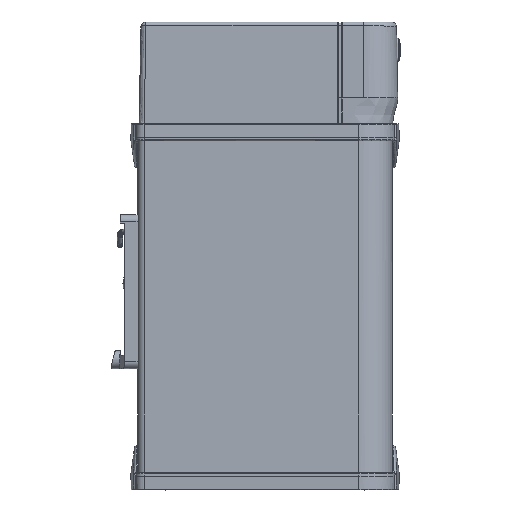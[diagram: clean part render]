
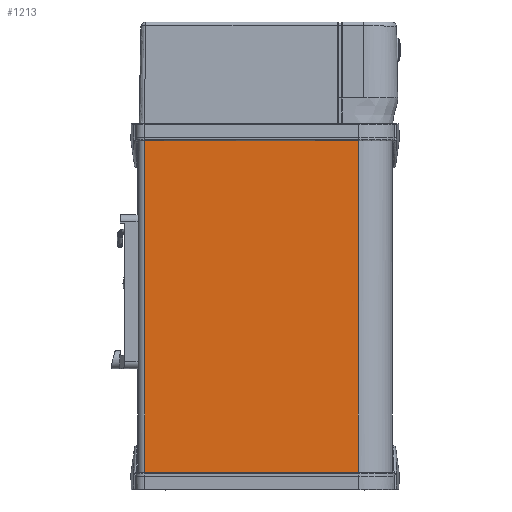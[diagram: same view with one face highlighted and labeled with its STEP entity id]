
A CAD part, left-side view. The second image highlights one B-rep face of the part: STEP entity #1213.
In plain terms, the highlighted planar face has unit normal (-1, 0, 0).
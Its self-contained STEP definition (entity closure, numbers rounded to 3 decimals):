
#1213=ADVANCED_FACE($,(#2496),#16156,.T.);
#2496=FACE_OUTER_BOUND($,#3844,.T.);
#3844=EDGE_LOOP($,(#9317,#9318,#9319,#9320));
#9317=ORIENTED_EDGE($,*,*,#13229,.T.);
#9318=ORIENTED_EDGE($,*,*,#13228,.T.);
#9319=ORIENTED_EDGE($,*,*,#13230,.T.);
#9320=ORIENTED_EDGE($,*,*,#13227,.T.);
#13227=EDGE_CURVE($,#15586,#15585,#18498,.T.);
#13228=EDGE_CURVE($,#15587,#15588,#18499,.T.);
#13229=EDGE_CURVE($,#15585,#15587,#18500,.T.);
#13230=EDGE_CURVE($,#15588,#15586,#18501,.T.);
#15585=VERTEX_POINT($,#41113);
#15586=VERTEX_POINT($,#41114);
#15587=VERTEX_POINT($,#41115);
#15588=VERTEX_POINT($,#41116);
#16156=PLANE($,#21214);
#18498=B_SPLINE_CURVE_WITH_KNOTS($,1,(#40655,#40656),.UNSPECIFIED.,.F.,.F.,
(2,2),(0.,100.),.UNSPECIFIED.);
#18499=B_SPLINE_CURVE_WITH_KNOTS($,1,(#40657,#40658),.UNSPECIFIED.,.F.,.F.,
(2,2),(-100.,0.),.UNSPECIFIED.);
#18500=B_SPLINE_CURVE_WITH_KNOTS($,1,(#40659,#40660),.UNSPECIFIED.,.F.,.F.,
(2,2),(-63.,0.),.UNSPECIFIED.);
#18501=B_SPLINE_CURVE_WITH_KNOTS($,1,(#40661,#40662),.UNSPECIFIED.,.F.,.F.,
(2,2),(0.,63.),.UNSPECIFIED.);
#21214=AXIS2_PLACEMENT_3D($,#40958,#21525,$);
#21525=DIRECTION($,(-1.,0.,0.));
#40655=CARTESIAN_POINT($,(69.916,-27.508,-100.));
#40656=CARTESIAN_POINT($,(69.916,-27.508,0.));
#40657=CARTESIAN_POINT($,(69.916,35.492,0.));
#40658=CARTESIAN_POINT($,(69.916,35.492,-100.));
#40659=CARTESIAN_POINT($,(69.916,-27.508,0.));
#40660=CARTESIAN_POINT($,(69.916,35.492,0.));
#40661=CARTESIAN_POINT($,(69.916,35.492,-100.));
#40662=CARTESIAN_POINT($,(69.916,-27.508,-100.));
#40958=CARTESIAN_POINT($,(69.916,-27.508,0.));
#41113=CARTESIAN_POINT($,(69.916,-27.508,0.));
#41114=CARTESIAN_POINT($,(69.916,-27.508,-100.));
#41115=CARTESIAN_POINT($,(69.916,35.492,0.));
#41116=CARTESIAN_POINT($,(69.916,35.492,-100.));
